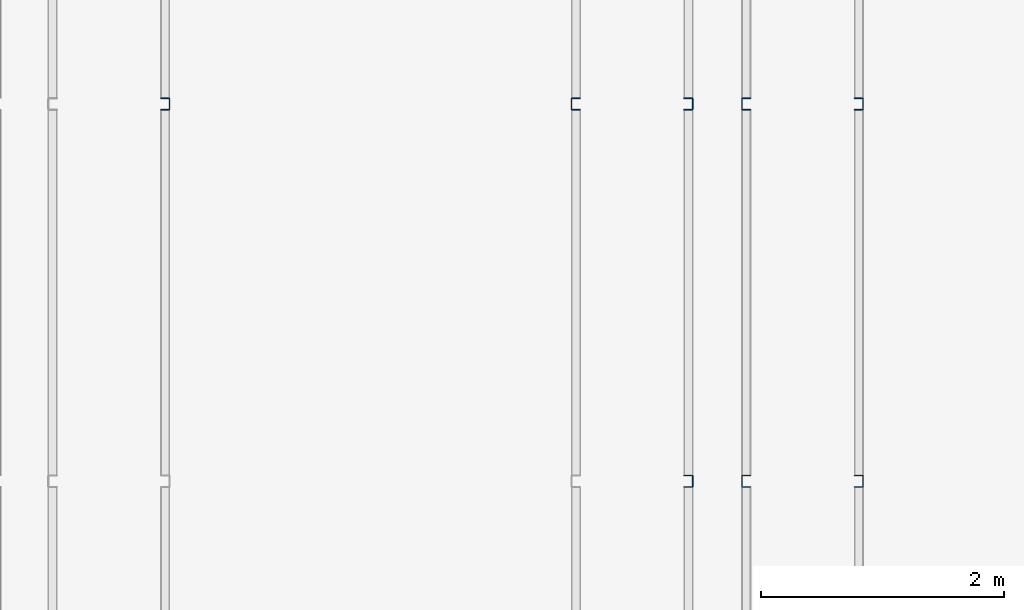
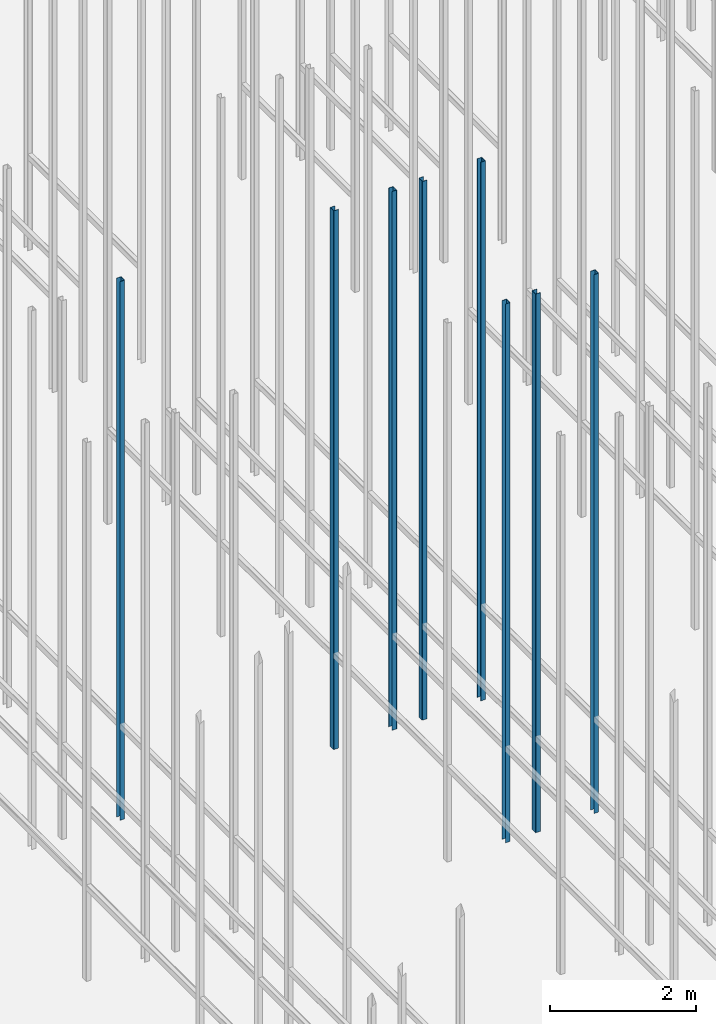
# One storey, part 20 of 302: 8 columns.
"""IFC2X3 building model written with IfcOpenShell, lengths in metres."""

from ifc_helpers import new_model, entity, si_unit, converted_unit, derived_unit, direction, frame, frame_2d, origin, place, context, subcontext, project, spatial, polyline, circle_curve, parameter, trimmed, segment, composite_curve, outline, extrude, source, transform, mapped, material, type_object, type_shapes, element, save


model = new_model("IFC2X3")

# Units and contexts
model_context = context("Model", 3, precision=1e-05, world=origin(), true_north=direction((6.12303176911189e-17, 1.0)))
body_context = subcontext(model_context, "Body", "Model", "MODEL_VIEW")
ifc_project = project(units=[si_unit("LENGTHUNIT", "METRE"), si_unit("AREAUNIT", "SQUARE_METRE"), si_unit("VOLUMEUNIT", "CUBIC_METRE"), converted_unit("PLANEANGLEUNIT", "DEGREE", entity("IfcRatioMeasure", 0.0174532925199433), si_unit("PLANEANGLEUNIT", "RADIAN"), dimensions=[0, 0, 0, 0, 0, 0, 0]), si_unit("MASSUNIT", "GRAM", prefix="KILO"), derived_unit("MASSDENSITYUNIT", [(si_unit("MASSUNIT", "GRAM", prefix="KILO"), 1), (si_unit("LENGTHUNIT", "METRE"), -3)]), derived_unit("MOMENTOFINERTIAUNIT", [(si_unit("LENGTHUNIT", "METRE"), 4)]), si_unit("TIMEUNIT", "SECOND"), si_unit("FREQUENCYUNIT", "HERTZ"), si_unit("THERMODYNAMICTEMPERATUREUNIT", "DEGREE_CELSIUS"), derived_unit("THERMALTRANSMITTANCEUNIT", [(si_unit("MASSUNIT", "GRAM", prefix="KILO"), 1), (si_unit("THERMODYNAMICTEMPERATUREUNIT", "KELVIN"), -1), (si_unit("TIMEUNIT", "SECOND"), -3)]), derived_unit("VOLUMETRICFLOWRATEUNIT", [(si_unit("LENGTHUNIT", "METRE"), 3), (si_unit("TIMEUNIT", "SECOND"), -1)]), si_unit("ELECTRICCURRENTUNIT", "AMPERE"), si_unit("ELECTRICVOLTAGEUNIT", "VOLT"), si_unit("POWERUNIT", "WATT"), si_unit("FORCEUNIT", "NEWTON", prefix="KILO"), si_unit("ILLUMINANCEUNIT", "LUX"), si_unit("LUMINOUSFLUXUNIT", "LUMEN"), si_unit("LUMINOUSINTENSITYUNIT", "CANDELA"), derived_unit("USERDEFINED", [(si_unit("MASSUNIT", "GRAM", prefix="KILO"), -1), (si_unit("LENGTHUNIT", "METRE"), -2), (si_unit("TIMEUNIT", "SECOND"), 3), (si_unit("LUMINOUSFLUXUNIT", "LUMEN"), 1)]), derived_unit("LINEARVELOCITYUNIT", [(si_unit("LENGTHUNIT", "METRE"), 1), (si_unit("TIMEUNIT", "SECOND"), -1)]), si_unit("PRESSUREUNIT", "PASCAL"), derived_unit("USERDEFINED", [(si_unit("LENGTHUNIT", "METRE"), -2), (si_unit("MASSUNIT", "GRAM", prefix="KILO"), 1), (si_unit("TIMEUNIT", "SECOND"), -2)]), derived_unit("LINEARFORCEUNIT", [(si_unit("MASSUNIT", "GRAM", prefix="KILO"), 1), (si_unit("LENGTHUNIT", "METRE"), 1), (si_unit("TIMEUNIT", "SECOND"), -2), (si_unit("LENGTHUNIT", "METRE"), -1)]), derived_unit("PLANARFORCEUNIT", [(si_unit("MASSUNIT", "GRAM", prefix="KILO"), 1), (si_unit("LENGTHUNIT", "METRE"), 1), (si_unit("TIMEUNIT", "SECOND"), -2), (si_unit("LENGTHUNIT", "METRE"), -2)])], contexts=[model_context])

# Site, building, storey
site_placement = place(None, origin())
site = spatial("IfcSite", under=ifc_project, at=site_placement, Name="Default", CompositionType="ELEMENT")
building_placement = place(site_placement, origin())
building = spatial("IfcBuilding", under=site, at=building_placement, CompositionType="ELEMENT")
storey_placement = place(building_placement, frame((0.0, 0.0, -1.3)))
storey = spatial("IfcBuildingStorey", under=building, at=storey_placement, Name="00_EG", CompositionType="ELEMENT", Elevation=-1.3)

# Columns
ifc_material = material(Name="Metall - Baustahl S235")
column_type_1 = type_object("IfcColumnType", Name="Leichter Stahl Schlossschrauben Stütze:C 100", PredefinedType="COLUMN", material=ifc_material)
shared_shape_1 = source(origin(), body_context, "Body", "SweptSolid", [
    extrude(outline(composite_curve([segment(polyline([(-0.0469749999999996, -0.0499999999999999), (0.0214500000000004, -0.0499999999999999)]), True, "CONTINUOUS"), segment(trimmed(circle_curve(frame_2d((0.0214500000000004, -0.0434249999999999), x_axis=(0.0, -1.0)), 0.00657500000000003), [parameter(0.0)], [parameter(89.9999999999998)], True, "PARAMETER"), True, "CONTINUOUS"), segment(polyline([(0.0280250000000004, -0.0434249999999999), (0.0280250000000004, 0.0434250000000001)]), True, "CONTINUOUS"), segment(trimmed(circle_curve(frame_2d((0.0214500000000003, 0.0434250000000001), x_axis=(1.0, 0.0)), 0.0065750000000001), [parameter(0.0)], [parameter(89.9999999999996)], True, "PARAMETER"), True, "CONTINUOUS"), segment(polyline([(0.0214500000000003, 0.0500000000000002), (-0.0469750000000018, 0.0500000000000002)]), True, "CONTINUOUS"), segment(polyline([(-0.0469750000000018, 0.0500000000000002), (-0.0469750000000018, 0.0450000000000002)]), True, "CONTINUOUS"), segment(polyline([(-0.0469750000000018, 0.0450000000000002), (0.0214500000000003, 0.0450000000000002)]), True, "CONTINUOUS"), segment(trimmed(circle_curve(frame_2d((0.0214500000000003, 0.0434249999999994), x_axis=(0.0, 1.0)), 0.00157500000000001), [parameter(269.999999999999)], [parameter(0.0)], True, "PARAMETER"), False, "CONTINUOUS"), segment(polyline([(0.0230250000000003, 0.0434249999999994), (0.0230250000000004, -0.0434249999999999)]), True, "CONTINUOUS"), segment(trimmed(circle_curve(frame_2d((0.0214500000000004, -0.0434249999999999), x_axis=(1.0, 0.0)), 0.00157500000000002), [parameter(270.0)], [parameter(0.0)], True, "PARAMETER"), False, "CONTINUOUS"), segment(polyline([(0.0214500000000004, -0.0449999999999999), (-0.0469749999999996, -0.0449999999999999)]), True, "CONTINUOUS"), segment(polyline([(-0.0469749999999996, -0.0449999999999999), (-0.0469749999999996, -0.0499999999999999)]), True, "CONTINUOUS")], self_intersect=False)), frame((0.0499999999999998, 0.0280250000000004, -0.0300000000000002), z_axis=(0.0, 0.0, 1.0), x_axis=(0.0, -1.0, 0.0)), (0.0, 0.0, 1.0), 9.0),
])
type_shapes(column_type_1, [shared_shape_1])
for number, where, z_axis, x_axis in (
    (1, (-196.490111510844, 39.548088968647, 1.3), (0.0, 0.0, 1.0), (0.0, -1.0, 0.0)),
    (2, (-195.090111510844, 36.448088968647, 1.3), (0.0, 0.0, 1.0), (0.0, -1.0, 0.0)),
    (3, (-195.090111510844, 39.548088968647, 1.3), (0.0, 0.0, 1.0), (0.0, -1.0, 0.0)),
):
    element("IfcColumn", number, at=place(storey_placement, frame(where, z_axis=z_axis, x_axis=x_axis)), inside=storey, type_object=column_type_1, material=ifc_material, Name="Leichter Stahl Schlossschrauben Stütze:C 100", ObjectType="Leichter Stahl Schlossschrauben Stütze:C 100", context=body_context, shape_type="MappedRepresentation", body=[
        mapped(shared_shape_1, transform((0.0, 0.0, 0.0), scale=1.0)),
    ])
column_type_2 = type_object("IfcColumnType", Name="Leichter Stahl Schlossschrauben Stütze:C 100", PredefinedType="COLUMN", material=ifc_material)
shared_shape_2 = source(origin(), body_context, "Body", "SweptSolid", [
    extrude(outline(composite_curve([segment(polyline([(-0.0214500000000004, -0.0499999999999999), (0.0469749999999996, -0.0499999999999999)]), True, "CONTINUOUS"), segment(polyline([(0.0469749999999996, -0.0499999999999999), (0.0469749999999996, -0.0449999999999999)]), True, "CONTINUOUS"), segment(polyline([(0.0469749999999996, -0.0449999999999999), (-0.0214500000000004, -0.045)]), True, "CONTINUOUS"), segment(trimmed(circle_curve(frame_2d((-0.0214500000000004, -0.043425), x_axis=(0.0, -1.0)), 0.00157500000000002), [parameter(270.0)], [parameter(0.0)], True, "PARAMETER"), False, "CONTINUOUS"), segment(polyline([(-0.0230250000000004, -0.0434249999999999), (-0.0230250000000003, 0.0434249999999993)]), True, "CONTINUOUS"), segment(trimmed(circle_curve(frame_2d((-0.0214500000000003, 0.0434249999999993), x_axis=(-1.0, 0.0)), 0.00157500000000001), [parameter(269.999999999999)], [parameter(0.0)], True, "PARAMETER"), False, "CONTINUOUS"), segment(polyline([(-0.0214500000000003, 0.0450000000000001), (0.0469750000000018, 0.0450000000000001)]), True, "CONTINUOUS"), segment(polyline([(0.0469750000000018, 0.0450000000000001), (0.0469750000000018, 0.0500000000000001)]), True, "CONTINUOUS"), segment(polyline([(0.0469750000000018, 0.0500000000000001), (-0.0214500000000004, 0.0500000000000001)]), True, "CONTINUOUS"), segment(trimmed(circle_curve(frame_2d((-0.0214500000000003, 0.043425), x_axis=(0.0, 1.0)), 0.0065750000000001), [parameter(0.0)], [parameter(89.9999999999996)], True, "PARAMETER"), True, "CONTINUOUS"), segment(polyline([(-0.0280250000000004, 0.043425), (-0.0280250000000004, -0.043425)]), True, "CONTINUOUS"), segment(trimmed(circle_curve(frame_2d((-0.0214500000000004, -0.0434249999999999), x_axis=(-1.0, 0.0)), 0.00657500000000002), [parameter(0.0)], [parameter(89.9999999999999)], True, "PARAMETER"), True, "CONTINUOUS")], self_intersect=False)), frame((0.0499999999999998, -0.0280250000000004, -0.0300000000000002), z_axis=(0.0, 0.0, 1.0), x_axis=(0.0, -1.0, 0.0)), (0.0, 0.0, 1.0), 9.0),
])
type_shapes(column_type_2, [shared_shape_2])
for number, where, z_axis, x_axis in (
    (4, (-195.490111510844, 36.448088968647, 1.3), (0.0, 0.0, 1.0), (0.0, -1.0, 0.0)),
    (5, (-195.490111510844, 39.548088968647, 1.3), (0.0, 0.0, 1.0), (0.0, -1.0, 0.0)),
    (6, (-199.790111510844, 39.548088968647, 1.3), (0.0, 0.0, 1.0), (0.0, -1.0, 0.0)),
    (7, (-194.090111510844, 36.448088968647, 1.3), (0.0, 0.0, 1.0), (0.0, -1.0, 0.0)),
    (8, (-194.090111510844, 39.548088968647, 1.3), (0.0, 0.0, 1.0), (0.0, -1.0, 0.0)),
):
    element("IfcColumn", number, at=place(storey_placement, frame(where, z_axis=z_axis, x_axis=x_axis)), inside=storey, type_object=column_type_2, material=ifc_material, Name="Leichter Stahl Schlossschrauben Stütze:C 100", ObjectType="Leichter Stahl Schlossschrauben Stütze:C 100", context=body_context, shape_type="MappedRepresentation", body=[
        mapped(shared_shape_2, transform((0.0, 0.0, 0.0), scale=1.0)),
    ])

save(model, "model.ifc")
